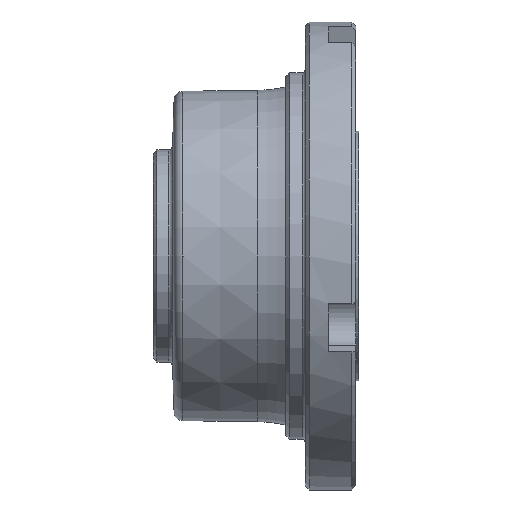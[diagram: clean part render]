
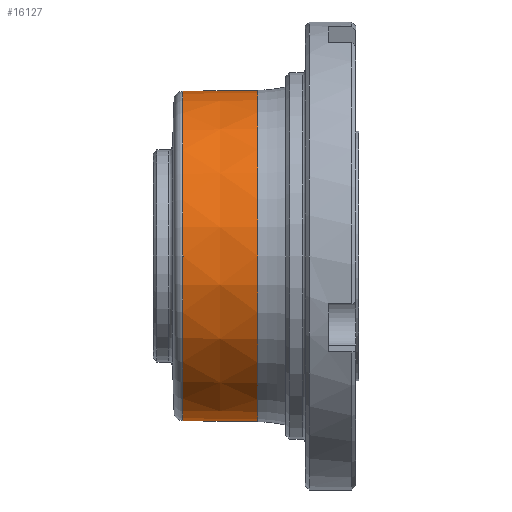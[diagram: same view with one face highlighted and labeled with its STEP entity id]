
A CAD part, front view. The second image highlights one B-rep face of the part: STEP entity #16127.
In plain terms, the highlighted conical face has half-angle 0.7 degrees and reference radius 21.239 mm.
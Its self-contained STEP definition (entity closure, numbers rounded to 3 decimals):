
#40 = CARTESIAN_POINT ( 'NONE',  ( 13.393, 0., 0. ) ) ;
#312 = VECTOR ( 'NONE', #11540, 1000. ) ;
#1052 = EDGE_CURVE ( 'NONE', #9650, #14635, #7048, .T. ) ;
#1251 = ORIENTED_EDGE ( 'NONE', *, *, #1052, .T. ) ;
#1764 = FACE_OUTER_BOUND ( 'NONE', #17054, .T. ) ;
#2605 = CARTESIAN_POINT ( 'NONE',  ( 13.393, 0., -21.239 ) ) ;
#2732 = AXIS2_PLACEMENT_3D ( 'NONE', #40, #2808, #4199 ) ;
#2808 = DIRECTION ( 'NONE',  ( 1., 0., 0. ) ) ;
#2886 = DIRECTION ( 'NONE',  ( -1., 0., 0. ) ) ;
#3141 = VECTOR ( 'NONE', #11036, 1000. ) ;
#3446 = EDGE_CURVE ( 'NONE', #10637, #14635, #10573, .T. ) ;
#3590 = ORIENTED_EDGE ( 'NONE', *, *, #9604, .F. ) ;
#3788 = ORIENTED_EDGE ( 'NONE', *, *, #3446, .F. ) ;
#3861 = VERTEX_POINT ( 'NONE', #8070 ) ;
#4199 = DIRECTION ( 'NONE',  ( 0., 0., -1. ) ) ;
#4888 = ORIENTED_EDGE ( 'NONE', *, *, #6649, .T. ) ;
#4907 = CARTESIAN_POINT ( 'NONE',  ( 13.393, 0., 21.239 ) ) ;
#5263 = CARTESIAN_POINT ( 'NONE',  ( 3.787, 0., 21.121 ) ) ;
#6462 = CARTESIAN_POINT ( 'NONE',  ( 13.393, 0., 0. ) ) ;
#6649 = EDGE_CURVE ( 'NONE', #3861, #9650, #8200, .T. ) ;
#7048 = CIRCLE ( 'NONE', #14970, 21.239 ) ;
#7846 = DIRECTION ( 'NONE',  ( 0., 0., 1. ) ) ;
#8070 = CARTESIAN_POINT ( 'NONE',  ( 3.787, 0., -21.121 ) ) ;
#8200 = LINE ( 'NONE', #12923, #312 ) ;
#9604 = EDGE_CURVE ( 'NONE', #3861, #10637, #11203, .T. ) ;
#9650 = VERTEX_POINT ( 'NONE', #2605 ) ;
#10573 = LINE ( 'NONE', #18034, #3141 ) ;
#10637 = VERTEX_POINT ( 'NONE', #5263 ) ;
#11036 = DIRECTION ( 'NONE',  ( 1., 0., 0.012 ) ) ;
#11203 = CIRCLE ( 'NONE', #13096, 21.121 ) ;
#11276 = CARTESIAN_POINT ( 'NONE',  ( 3.787, 0., 0. ) ) ;
#11540 = DIRECTION ( 'NONE',  ( 1., 0., -0.012 ) ) ;
#11622 = CONICAL_SURFACE ( 'NONE', #2732, 21.239, 0.012 ) ;
#12665 = DIRECTION ( 'NONE',  ( 0., 0., 1. ) ) ;
#12923 = CARTESIAN_POINT ( 'NONE',  ( 13.393, 0., -21.239 ) ) ;
#13096 = AXIS2_PLACEMENT_3D ( 'NONE', #11276, #2886, #12665 ) ;
#14635 = VERTEX_POINT ( 'NONE', #4907 ) ;
#14970 = AXIS2_PLACEMENT_3D ( 'NONE', #6462, #16238, #7846 ) ;
#16127 = ADVANCED_FACE ( 'NONE', ( #1764 ), #11622, .T. ) ;
#16238 = DIRECTION ( 'NONE',  ( -1., 0., 0. ) ) ;
#17054 = EDGE_LOOP ( 'NONE', ( #3788, #3590, #4888, #1251 ) ) ;
#18034 = CARTESIAN_POINT ( 'NONE',  ( 13.393, 0., 21.239 ) ) ;
